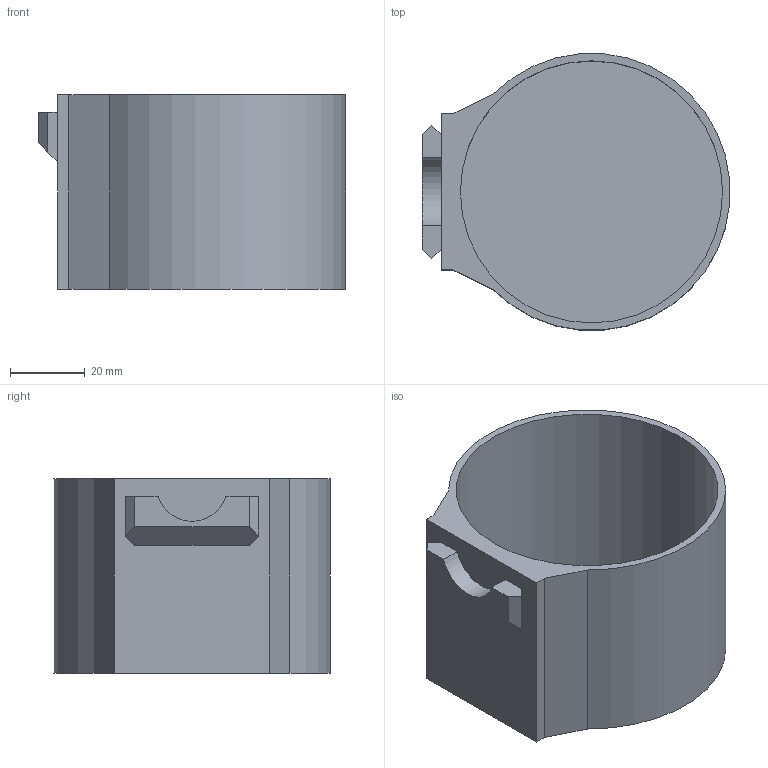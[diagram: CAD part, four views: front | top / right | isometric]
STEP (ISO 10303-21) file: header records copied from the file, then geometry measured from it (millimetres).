
FILE_DESCRIPTION(/* description */ ('','CAx-IF Rec.Pracs.---Representation and Presentation of Product Manufacturing Information (PMI)---4.0---2014-10-13'),/* implementation_level */ '2;1');
FILE_NAME(/* name */ 'Goews Single 1x Hanging Cup 70mm D x 50mm H.step',/* time_stamp */ '2024-12-16T19:14:42-05:00',/* author */ (''),/* organization */ (''),/* preprocessor_version */ 'ST-DEVELOPER v20',/* originating_system */ 'Autodesk Translation Framework v13.20.0.188',/* authorisation */ '');
FILE_SCHEMA (('AP242_MANAGED_MODEL_BASED_3D_ENGINEERING_MIM_LF { 1 0 10303 442 1 1 4 }'));
Length unit declared in the file: millimetre
Products named in the file (1): Goews Single 1x Hanging Cup parametric
Bounding box: 82.01 x 73.72 x 52 mm (x, y, z)
Volume: 45226.2 mm3; surface area: 33323.5 mm2
Topology: 1 solids, 1 shells, 22 faces, 52 edges, 34 vertices
Faces by surface type: plane 19, cylinder 3
Full cylindrical faces by diameter (mm): 70 x1
Entity records: 659 total; most frequent: CARTESIAN_POINT 109, ORIENTED_EDGE 104, DIRECTION 104, EDGE_CURVE 52, LINE 46, VECTOR 46, VERTEX_POINT 34, AXIS2_PLACEMENT_3D 29
